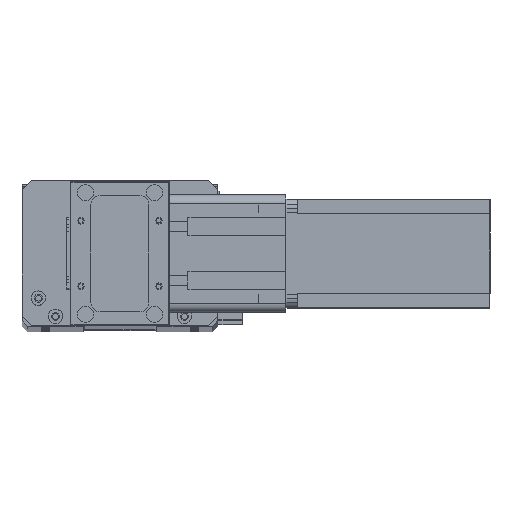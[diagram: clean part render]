
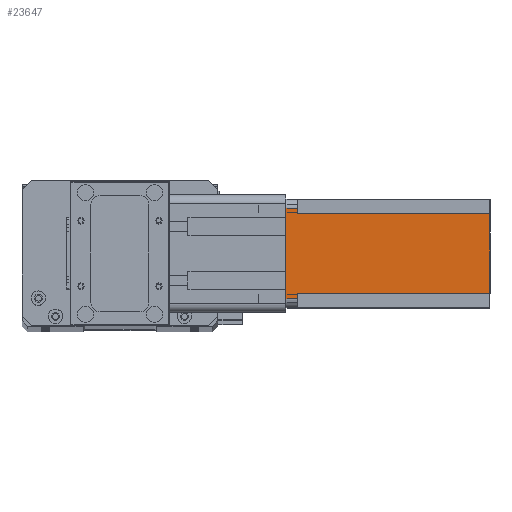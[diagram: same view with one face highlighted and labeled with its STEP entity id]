
A CAD part, top view. The second image highlights one B-rep face of the part: STEP entity #23647.
In plain terms, the highlighted planar face has unit normal (0, 0, 1) as drawn and (0, 1, 0) by its records, which use the part's own axes.
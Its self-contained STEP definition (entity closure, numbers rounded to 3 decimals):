
#595 = EDGE_CURVE ( 'NONE', #7942, #12528, #15274, .T. ) ;
#806 = EDGE_CURVE ( 'NONE', #25624, #11068, #11097, .T. ) ;
#965 = VECTOR ( 'NONE', #15829, 1000. ) ;
#1121 = DIRECTION ( 'NONE',  ( 0., 0., -1. ) ) ;
#1536 = EDGE_CURVE ( 'NONE', #4411, #4143, #4823, .T. ) ;
#1716 = CARTESIAN_POINT ( 'NONE',  ( 0., 60., -112.5 ) ) ;
#1920 = EDGE_CURVE ( 'NONE', #25624, #19698, #6894, .T. ) ;
#2071 = DIRECTION ( 'NONE',  ( 0., 1., 0. ) ) ;
#2255 = EDGE_CURVE ( 'NONE', #4411, #12528, #5837, .T. ) ;
#2954 = ORIENTED_EDGE ( 'NONE', *, *, #21759, .T. ) ;
#3472 = DIRECTION ( 'NONE',  ( -1., 0., 0. ) ) ;
#3492 = VECTOR ( 'NONE', #18877, 1000. ) ;
#3510 = ORIENTED_EDGE ( 'NONE', *, *, #806, .T. ) ;
#3886 = CARTESIAN_POINT ( 'NONE',  ( 52., 60., -6.5 ) ) ;
#4143 = VERTEX_POINT ( 'NONE', #7221 ) ;
#4411 = VERTEX_POINT ( 'NONE', #10398 ) ;
#4823 = LINE ( 'NONE', #16741, #11399 ) ;
#5597 = CARTESIAN_POINT ( 'NONE',  ( 8., 60., -112.5 ) ) ;
#5837 = LINE ( 'NONE', #5597, #16914 ) ;
#5842 = EDGE_CURVE ( 'NONE', #7942, #14364, #6391, .T. ) ;
#6132 = CARTESIAN_POINT ( 'NONE',  ( 55., 60., 0. ) ) ;
#6391 = LINE ( 'NONE', #12713, #12967 ) ;
#6894 = LINE ( 'NONE', #26823, #965 ) ;
#7221 = CARTESIAN_POINT ( 'NONE',  ( 5., 60., -6.5 ) ) ;
#7680 = DIRECTION ( 'NONE',  ( 0., 0., 1. ) ) ;
#7843 = LINE ( 'NONE', #18680, #24055 ) ;
#7942 = VERTEX_POINT ( 'NONE', #28212 ) ;
#8763 = CARTESIAN_POINT ( 'NONE',  ( 52., 60., -6.5 ) ) ;
#9191 = LINE ( 'NONE', #3886, #20941 ) ;
#10398 = CARTESIAN_POINT ( 'NONE',  ( 8., 60., -6.5 ) ) ;
#10501 = FACE_OUTER_BOUND ( 'NONE', #24149, .T. ) ;
#11068 = VERTEX_POINT ( 'NONE', #18585 ) ;
#11097 = LINE ( 'NONE', #26872, #22153 ) ;
#11269 = ORIENTED_EDGE ( 'NONE', *, *, #1920, .F. ) ;
#11396 = ORIENTED_EDGE ( 'NONE', *, *, #1536, .T. ) ;
#11399 = VECTOR ( 'NONE', #3472, 1000. ) ;
#12528 = VERTEX_POINT ( 'NONE', #15238 ) ;
#12713 = CARTESIAN_POINT ( 'NONE',  ( 52., 60., -112.5 ) ) ;
#12967 = VECTOR ( 'NONE', #25914, 1000. ) ;
#13040 = CARTESIAN_POINT ( 'NONE',  ( 0., 60., -112.5 ) ) ;
#13128 = PLANE ( 'NONE',  #25164 ) ;
#14364 = VERTEX_POINT ( 'NONE', #8763 ) ;
#15238 = CARTESIAN_POINT ( 'NONE',  ( 8., 60., -112.5 ) ) ;
#15274 = LINE ( 'NONE', #1716, #3492 ) ;
#15829 = DIRECTION ( 'NONE',  ( -1., 0., 0. ) ) ;
#16741 = CARTESIAN_POINT ( 'NONE',  ( 8., 60., -6.5 ) ) ;
#16914 = VECTOR ( 'NONE', #1121, 1000. ) ;
#17439 = ORIENTED_EDGE ( 'NONE', *, *, #2255, .F. ) ;
#17575 = DIRECTION ( 'NONE',  ( 0., 0., 1. ) ) ;
#18551 = ORIENTED_EDGE ( 'NONE', *, *, #19175, .F. ) ;
#18585 = CARTESIAN_POINT ( 'NONE',  ( 55., 60., -6.5 ) ) ;
#18680 = CARTESIAN_POINT ( 'NONE',  ( 5., 60., -112.5 ) ) ;
#18869 = ORIENTED_EDGE ( 'NONE', *, *, #595, .T. ) ;
#18877 = DIRECTION ( 'NONE',  ( -1., 0., 0. ) ) ;
#19175 = EDGE_CURVE ( 'NONE', #14364, #11068, #9191, .T. ) ;
#19698 = VERTEX_POINT ( 'NONE', #23462 ) ;
#20234 = DIRECTION ( 'NONE',  ( 0., 0., -1. ) ) ;
#20941 = VECTOR ( 'NONE', #28012, 1000. ) ;
#21759 = EDGE_CURVE ( 'NONE', #4143, #19698, #7843, .T. ) ;
#22153 = VECTOR ( 'NONE', #20234, 1000. ) ;
#23462 = CARTESIAN_POINT ( 'NONE',  ( 5., 60., 0. ) ) ;
#23647 = ADVANCED_FACE ( 'NONE', ( #10501 ), #13128, .T. ) ;
#24055 = VECTOR ( 'NONE', #7680, 1000. ) ;
#24149 = EDGE_LOOP ( 'NONE', ( #11269, #3510, #18551, #28366, #18869, #17439, #11396, #2954 ) ) ;
#25164 = AXIS2_PLACEMENT_3D ( 'NONE', #13040, #2071, #17575 ) ;
#25624 = VERTEX_POINT ( 'NONE', #6132 ) ;
#25914 = DIRECTION ( 'NONE',  ( 0., 0., 1. ) ) ;
#26823 = CARTESIAN_POINT ( 'NONE',  ( 0., 60., 0. ) ) ;
#26872 = CARTESIAN_POINT ( 'NONE',  ( 55., 60., -112.5 ) ) ;
#28012 = DIRECTION ( 'NONE',  ( 1., 0., 0. ) ) ;
#28212 = CARTESIAN_POINT ( 'NONE',  ( 52., 60., -112.5 ) ) ;
#28366 = ORIENTED_EDGE ( 'NONE', *, *, #5842, .F. ) ;
